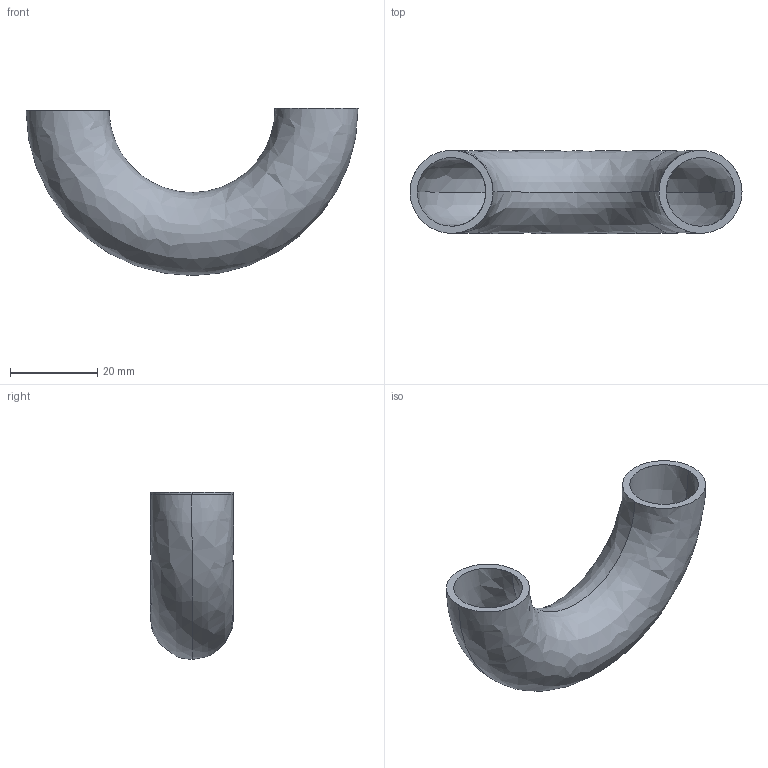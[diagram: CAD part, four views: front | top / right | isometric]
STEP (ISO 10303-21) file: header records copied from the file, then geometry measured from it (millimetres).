
FILE_DESCRIPTION (( 'STEP AP203' ), '1' );
FILE_NAME ('E2WU.75.STEP', '2018-04-30T18:28:05', ( 'vneprd' ), ( 'Microsoft' ), 'SwSTEP 2.0', 'SolidWorks 2014', '' );
FILE_SCHEMA (( 'CONFIG_CONTROL_DESIGN' ));
Length unit declared in the file: inch
Products named in the file (1): E2WU.75
Bounding box: 76.2 x 19.05 x 38.35 mm (x, y, z)
Volume: 8102.4 mm3; surface area: 9994 mm2
Topology: 1 solids, 1 shells, 10 faces, 22 edges, 14 vertices
Faces by surface type: bspline 8, plane 2
Entity records: 3207 total; most frequent: CARTESIAN_POINT 2941, ORIENTED_EDGE 44, DIRECTION 26, EDGE_CURVE 22, VERTEX_POINT 14, AXIS2_PLACEMENT_3D 13, EDGE_LOOP 12, B_SPLINE_CURVE_WITH_KNOTS 12
